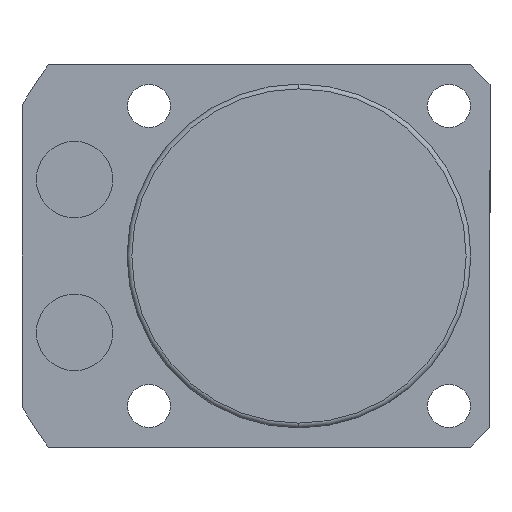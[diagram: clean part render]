
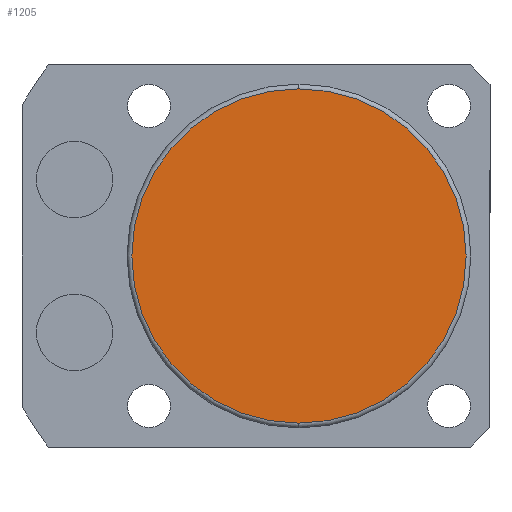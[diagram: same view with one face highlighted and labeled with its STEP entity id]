
A CAD part, front view. The second image highlights one B-rep face of the part: STEP entity #1205.
In plain terms, the highlighted planar face has unit normal (0, -1, 0).
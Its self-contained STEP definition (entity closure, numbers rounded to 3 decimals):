
#126 = AXIS2_PLACEMENT_3D ( 'NONE', #3572, #479, #3976 ) ;
#161 = VERTEX_POINT ( 'NONE', #186 ) ;
#177 = DIRECTION ( 'NONE',  ( 0., -1., 0. ) ) ;
#186 = CARTESIAN_POINT ( 'NONE',  ( 0., -135.5, 17.5 ) ) ;
#479 = DIRECTION ( 'NONE',  ( 0., -1., 0. ) ) ;
#852 = PLANE ( 'NONE',  #126 ) ;
#956 = CARTESIAN_POINT ( 'NONE',  ( 0., -135.5, 0. ) ) ;
#983 = ORIENTED_EDGE ( 'NONE', *, *, #1919, .T. ) ;
#1205 = ADVANCED_FACE ( 'NONE', ( #1428 ), #852, .T. ) ;
#1286 = ORIENTED_EDGE ( 'NONE', *, *, #4824, .T. ) ;
#1428 = FACE_OUTER_BOUND ( 'NONE', #4369, .T. ) ;
#1793 = DIRECTION ( 'NONE',  ( 0., -1., 0. ) ) ;
#1906 = AXIS2_PLACEMENT_3D ( 'NONE', #956, #177, #4856 ) ;
#1919 = EDGE_CURVE ( 'NONE', #161, #4009, #3201, .T. ) ;
#2428 = CARTESIAN_POINT ( 'NONE',  ( 0., -135.5, -17.5 ) ) ;
#3025 = CIRCLE ( 'NONE', #3818, 17.5 ) ;
#3201 = CIRCLE ( 'NONE', #1906, 17.5 ) ;
#3390 = DIRECTION ( 'NONE',  ( 0., 0., -1. ) ) ;
#3572 = CARTESIAN_POINT ( 'NONE',  ( 0., -135.5, 0. ) ) ;
#3818 = AXIS2_PLACEMENT_3D ( 'NONE', #4183, #1793, #3390 ) ;
#3976 = DIRECTION ( 'NONE',  ( 0., 0., -1. ) ) ;
#4009 = VERTEX_POINT ( 'NONE', #2428 ) ;
#4183 = CARTESIAN_POINT ( 'NONE',  ( 0., -135.5, 0. ) ) ;
#4369 = EDGE_LOOP ( 'NONE', ( #1286, #983 ) ) ;
#4824 = EDGE_CURVE ( 'NONE', #4009, #161, #3025, .T. ) ;
#4856 = DIRECTION ( 'NONE',  ( 0., 0., -1. ) ) ;
